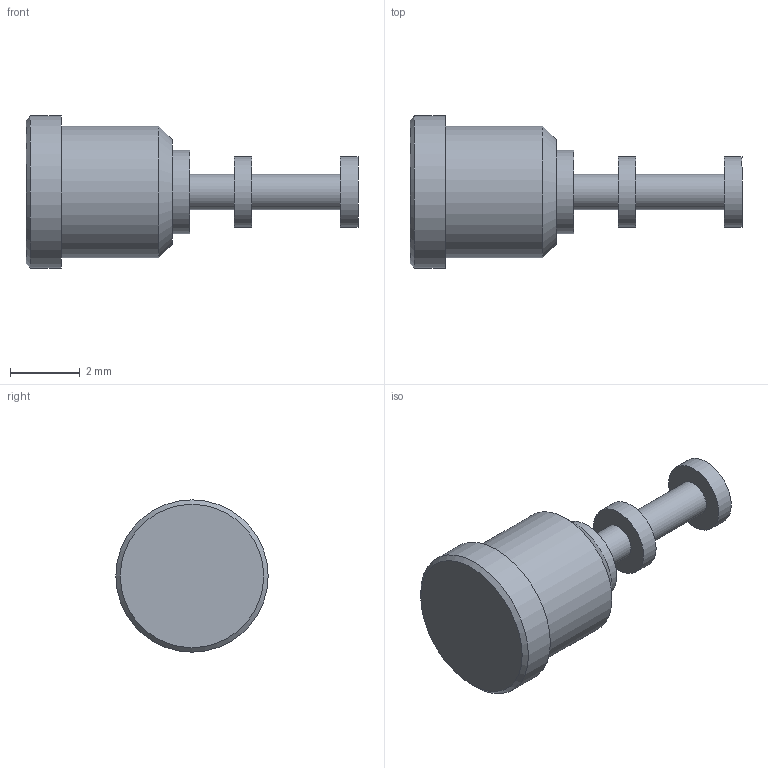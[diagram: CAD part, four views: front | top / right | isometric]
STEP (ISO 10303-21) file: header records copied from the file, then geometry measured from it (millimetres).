
FILE_DESCRIPTION(/* description */ (''),/* implementation_level */ '2;1');
FILE_NAME(/* name */ '\\Snap1\dwgs\Customer 3D Models\571\571-4033-02 Customer model.stp',/* time_stamp */ '2017-01-05T10:52:32+00:00',/* author */ ('paulk'),/* organization */ (''),/* preprocessor_version */ 'ST-DEVELOPER v15.2',/* originating_system */ 'Autodesk Inventor 2014',/* authorisation */ '');
FILE_SCHEMA (('CONFIG_CONTROL_DESIGN'));
Length unit declared in the file: millimetre
Products named in the file (1): 571-4033-02 Customer model
Bounding box: 9.53 x 4.37 x 4.37 mm (x, y, z)
Volume: 58.7 mm3; surface area: 110 mm2
Topology: 1 solids, 1 shells, 17 faces, 25 edges, 16 vertices
Faces by surface type: plane 8, cylinder 7, cone 2
Full cylindrical faces by diameter (mm): 1.016 x2, 2.032 x2, 2.388 x1, 3.785 x1, 4.369 x1
Entity records: 386 total; most frequent: DIRECTION 68, CARTESIAN_POINT 50, AXIS2_PLACEMENT_3D 34, EDGE_LOOP 32, ORIENTED_EDGE 32, FACE_BOUND 19, STYLED_ITEM 18, ADVANCED_FACE 17
